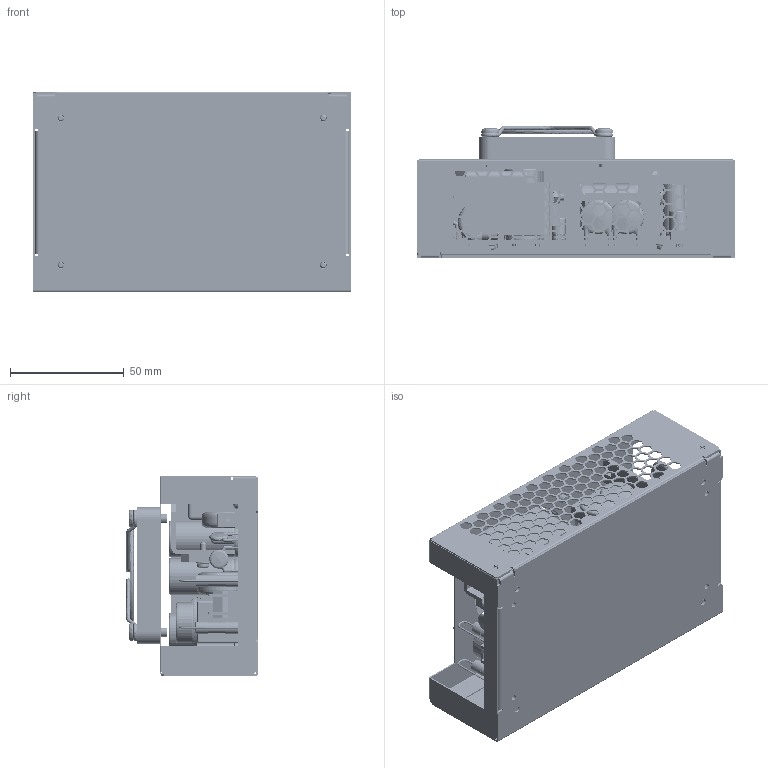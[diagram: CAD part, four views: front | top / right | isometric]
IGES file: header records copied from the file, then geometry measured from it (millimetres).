
Start section: SolidWorks IGES file using analytic representation for surfaces
Global section: file name: G:\Paul Lamb\CAD files to upload\GCS350-TF\GCS350-TF WITH 6 POS CONN.IGS; native system: SolidWorks 2016; preprocessor: SolidWorks 2016; author: bhooper; date: 160921.104126; units: millimetre
Bounding box: 139.7 x 57.88 x 88.47 mm (x, y, z)
Surface area: 201545.9 mm2 (no closed solid volume)
Topology: 0 solids, 0 shells, 6323 faces, 60242 edges, 60164 vertices
Faces by surface type: bspline 4355, revolution 1968
